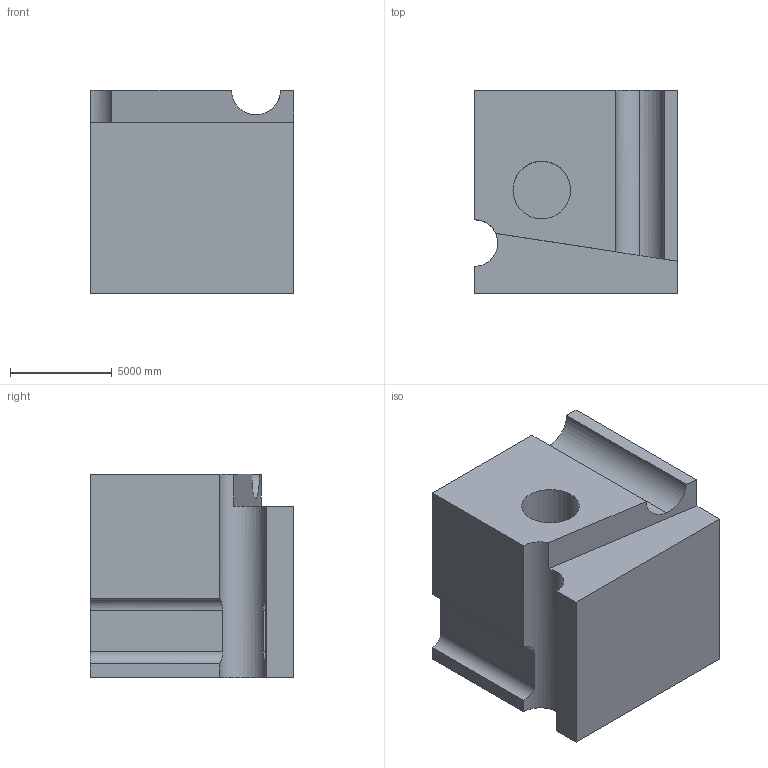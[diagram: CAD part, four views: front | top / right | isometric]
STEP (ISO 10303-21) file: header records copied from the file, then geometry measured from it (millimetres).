
FILE_DESCRIPTION (( 'STEP AP203' ), '1' );
FILE_NAME ('1497.STEP', '2022-08-18T14:50:25', ( 'user' ), ( '' ), 'SwSTEP 2.0', 'SolidWorks 2021', '' );
FILE_SCHEMA (( 'CONFIG_CONTROL_DESIGN' ));
Length unit declared in the file: centimetre
Products named in the file (1): 1497
Bounding box: 10000 x 10000 x 10000 mm (x, y, z)
Volume: 864284970674.5 mm3; surface area: 679270024.9 mm2
Topology: 1 solids, 1 shells, 24 faces, 60 edges, 40 vertices
Faces by surface type: plane 15, cylinder 9
Entity records: 981 total; most frequent: CARTESIAN_POINT 326, ORIENTED_EDGE 120, DIRECTION 117, EDGE_CURVE 60, LINE 41, VECTOR 41, VERTEX_POINT 40, AXIS2_PLACEMENT_3D 38
